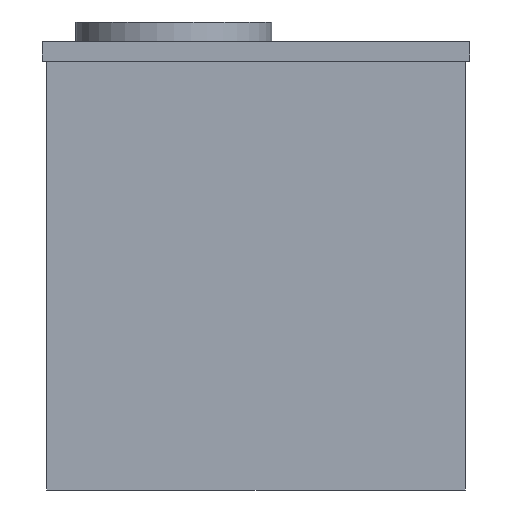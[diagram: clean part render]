
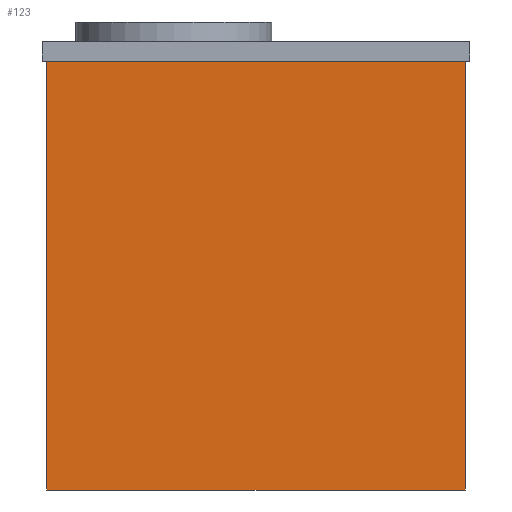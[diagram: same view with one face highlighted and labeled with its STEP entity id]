
A CAD part, front view. The second image highlights one B-rep face of the part: STEP entity #123.
In plain terms, the highlighted planar face has unit normal (0, -1, 0).
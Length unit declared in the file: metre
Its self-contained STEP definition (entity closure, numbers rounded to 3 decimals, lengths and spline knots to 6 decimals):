
#123=ADVANCED_FACE('0:36',(#294),#295,.T.);
#294=FACE_OUTER_BOUND('',#513,.T.);
#295=PLANE('',#514);
#513=EDGE_LOOP('',(#1301,#1302,#1303,#1304));
#514=AXIS2_PLACEMENT_3D('',#1305,#1306,#1307);
#1301=ORIENTED_EDGE('',*,*,#1614,.F.);
#1302=ORIENTED_EDGE('',*,*,#1615,.T.);
#1303=ORIENTED_EDGE('',*,*,#1616,.F.);
#1304=ORIENTED_EDGE('',*,*,#1598,.F.);
#1305=CARTESIAN_POINT('',(0.259,-1.07,0.0));
#1306=DIRECTION('',(0.0,-1.0,0.0));
#1307=DIRECTION('',(0.0,0.0,-1.0));
#1598=EDGE_CURVE('0:126',#1946,#1948,#1949,.F.);
#1614=EDGE_CURVE('0:117',#1974,#1946,#1975,.F.);
#1615=EDGE_CURVE('0:120',#1974,#1976,#1977,.T.);
#1616=EDGE_CURVE('0:123',#1948,#1976,#1978,.T.);
#1946=VERTEX_POINT('',#2716);
#1948=VERTEX_POINT('',#2719);
#1949=LINE('',#2720,#2721);
#1974=VERTEX_POINT('',#2757);
#1975=LINE('',#2758,#2759);
#1976=VERTEX_POINT('',#2760);
#1977=LINE('',#2761,#2762);
#1978=LINE('',#2763,#2764);
#2716=CARTESIAN_POINT('',(-0.345,-1.07,-0.263));
#2719=CARTESIAN_POINT('',(-0.345,-1.07,0.612));
#2720=CARTESIAN_POINT('',(-0.345,-1.07,0.0));
#2721=VECTOR('',#2936,1.0);
#2757=CARTESIAN_POINT('',(0.508,-1.07,-0.263));
#2758=CARTESIAN_POINT('',(0.1295,-1.07,-0.263));
#2759=VECTOR('',#2960,1.0);
#2760=CARTESIAN_POINT('',(0.508,-1.07,0.612));
#2761=CARTESIAN_POINT('',(0.508,-1.07,0.0));
#2762=VECTOR('',#2961,1.0);
#2763=CARTESIAN_POINT('',(0.1295,-1.07,0.612));
#2764=VECTOR('',#2962,1.0);
#2936=DIRECTION('',(-0.0,-0.0,-1.0));
#2960=DIRECTION('',(1.0,0.0,-0.0));
#2961=DIRECTION('',(0.0,0.0,1.0));
#2962=DIRECTION('',(1.0,0.0,0.0));
